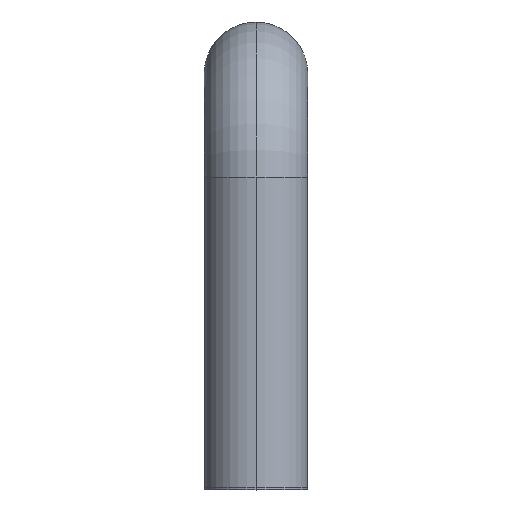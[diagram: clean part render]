
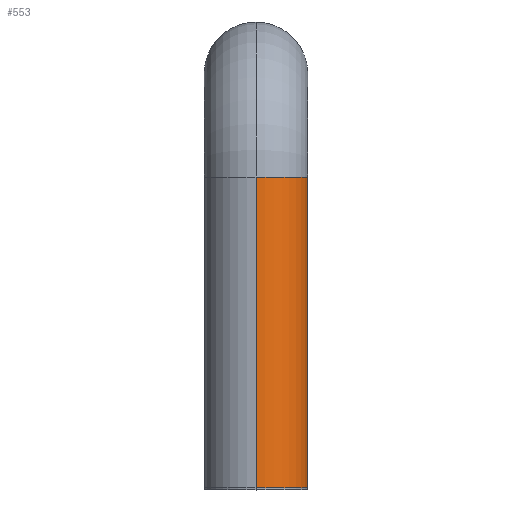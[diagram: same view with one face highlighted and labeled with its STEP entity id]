
A CAD part, top view. The second image highlights one B-rep face of the part: STEP entity #553.
In plain terms, the highlighted cylindrical face has radius 5 mm (diameter 10 mm), a partial arc.
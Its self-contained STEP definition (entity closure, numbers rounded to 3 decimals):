
#17 = DIRECTION ( 'NONE',  ( 0., 1., 0. ) ) ;
#35 = ORIENTED_EDGE ( 'NONE', *, *, #491, .F. ) ;
#39 = VERTEX_POINT ( 'NONE', #484 ) ;
#70 = CIRCLE ( 'NONE', #571, 5. ) ;
#97 = CARTESIAN_POINT ( 'NONE',  ( 0., 0., -5. ) ) ;
#108 = CARTESIAN_POINT ( 'NONE',  ( 0., 0., 0. ) ) ;
#112 = DIRECTION ( 'NONE',  ( 0., 0., 1. ) ) ;
#123 = VERTEX_POINT ( 'NONE', #150 ) ;
#150 = CARTESIAN_POINT ( 'NONE',  ( 0., 30., -5. ) ) ;
#153 = DIRECTION ( 'NONE',  ( 0., 1., 0. ) ) ;
#164 = CIRCLE ( 'NONE', #470, 5. ) ;
#174 = VECTOR ( 'NONE', #486, 1000. ) ;
#179 = VERTEX_POINT ( 'NONE', #234 ) ;
#203 = DIRECTION ( 'NONE',  ( 0., 0., 1. ) ) ;
#209 = CARTESIAN_POINT ( 'NONE',  ( 0., 0., 0. ) ) ;
#212 = VERTEX_POINT ( 'NONE', #615 ) ;
#220 = EDGE_LOOP ( 'NONE', ( #274, #561, #35, #271 ) ) ;
#234 = CARTESIAN_POINT ( 'NONE',  ( 0., 0., -5. ) ) ;
#271 = ORIENTED_EDGE ( 'NONE', *, *, #501, .F. ) ;
#274 = ORIENTED_EDGE ( 'NONE', *, *, #618, .T. ) ;
#331 = DIRECTION ( 'NONE',  ( 0., 0., 1. ) ) ;
#345 = LINE ( 'NONE', #575, #174 ) ;
#377 = AXIS2_PLACEMENT_3D ( 'NONE', #108, #153, #112 ) ;
#402 = VECTOR ( 'NONE', #435, 1000. ) ;
#435 = DIRECTION ( 'NONE',  ( 0., 1., 0. ) ) ;
#470 = AXIS2_PLACEMENT_3D ( 'NONE', #566, #627, #331 ) ;
#484 = CARTESIAN_POINT ( 'NONE',  ( 0., 30., 5. ) ) ;
#486 = DIRECTION ( 'NONE',  ( 0., 1., 0. ) ) ;
#491 = EDGE_CURVE ( 'NONE', #39, #123, #164, .T. ) ;
#501 = EDGE_CURVE ( 'NONE', #212, #39, #345, .T. ) ;
#534 = FACE_OUTER_BOUND ( 'NONE', #220, .T. ) ;
#537 = CYLINDRICAL_SURFACE ( 'NONE', #377, 5. ) ;
#549 = EDGE_CURVE ( 'NONE', #179, #123, #623, .T. ) ;
#553 = ADVANCED_FACE ( 'NONE', ( #534 ), #537, .T. ) ;
#561 = ORIENTED_EDGE ( 'NONE', *, *, #549, .T. ) ;
#566 = CARTESIAN_POINT ( 'NONE',  ( 0., 30., 0. ) ) ;
#571 = AXIS2_PLACEMENT_3D ( 'NONE', #209, #17, #203 ) ;
#575 = CARTESIAN_POINT ( 'NONE',  ( 0., 0., 5. ) ) ;
#615 = CARTESIAN_POINT ( 'NONE',  ( 0., 0., 5. ) ) ;
#618 = EDGE_CURVE ( 'NONE', #212, #179, #70, .T. ) ;
#623 = LINE ( 'NONE', #97, #402 ) ;
#627 = DIRECTION ( 'NONE',  ( 0., 1., 0. ) ) ;
